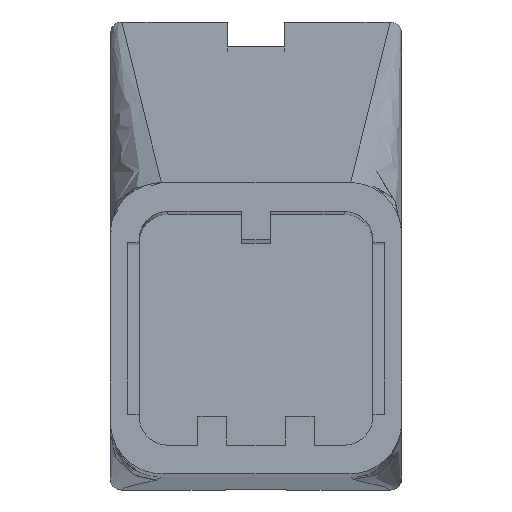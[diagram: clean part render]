
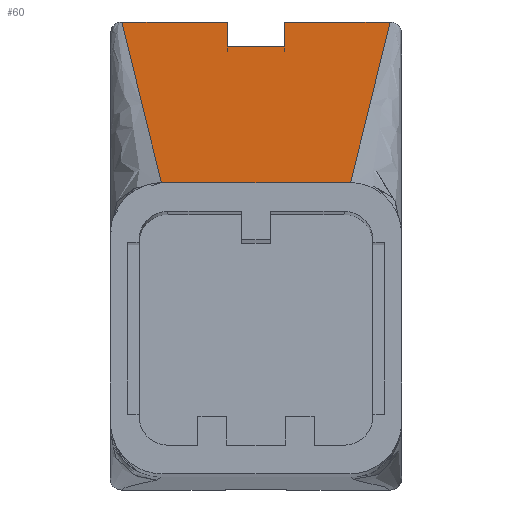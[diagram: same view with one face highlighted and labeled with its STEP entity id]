
A CAD part, top view. The second image highlights one B-rep face of the part: STEP entity #60.
In plain terms, the highlighted planar face has unit normal (0, 0.951, 0.309).
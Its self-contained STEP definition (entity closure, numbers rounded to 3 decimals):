
#60 = ADVANCED_FACE ( 'NONE', ( #2268 ), #554, .F. ) ;
#93 = EDGE_CURVE ( 'NONE', #1238, #2073, #885, .T. ) ;
#196 = LINE ( 'NONE', #731, #1003 ) ;
#206 = ORIENTED_EDGE ( 'NONE', *, *, #1747, .F. ) ;
#266 = CARTESIAN_POINT ( 'NONE',  ( 0., 25.4, 25.801 ) ) ;
#314 = LINE ( 'NONE', #1396, #1043 ) ;
#370 = CARTESIAN_POINT ( 'NONE',  ( 12.7, 39.726, -18.291 ) ) ;
#390 = EDGE_CURVE ( 'NONE', #2755, #2026, #2226, .T. ) ;
#459 = CARTESIAN_POINT ( 'NONE',  ( 11.7, 34.951, -3.594 ) ) ;
#494 = AXIS2_PLACEMENT_3D ( 'NONE', #876, #576, #863 ) ;
#507 = ORIENTED_EDGE ( 'NONE', *, *, #3163, .F. ) ;
#554 = PLANE ( 'NONE',  #494 ) ;
#576 = DIRECTION ( 'NONE',  ( 0., -0.951, -0.309 ) ) ;
#581 = CARTESIAN_POINT ( 'NONE',  ( -2.5, 37.563, -11.634 ) ) ;
#587 = LINE ( 'NONE', #3565, #1813 ) ;
#589 = DIRECTION ( 'NONE',  ( -1., 0., 0. ) ) ;
#600 = VECTOR ( 'NONE', #1489, 1000. ) ;
#606 = ORIENTED_EDGE ( 'NONE', *, *, #1386, .F. ) ;
#731 = CARTESIAN_POINT ( 'NONE',  ( 0., 37.563, -11.634 ) ) ;
#863 = DIRECTION ( 'NONE',  ( 0., 0.309, -0.951 ) ) ;
#876 = CARTESIAN_POINT ( 'NONE',  ( 12.7, 39.726, -18.291 ) ) ;
#885 = LINE ( 'NONE', #889, #1094 ) ;
#889 = CARTESIAN_POINT ( 'NONE',  ( 12.7, 39.726, -18.291 ) ) ;
#909 = CARTESIAN_POINT ( 'NONE',  ( -8.2, 30.175, 11.103 ) ) ;
#956 = LINE ( 'NONE', #2602, #600 ) ;
#1003 = VECTOR ( 'NONE', #2205, 1000. ) ;
#1043 = VECTOR ( 'NONE', #1450, 1000. ) ;
#1060 = EDGE_CURVE ( 'NONE', #2313, #2274, #956, .T. ) ;
#1066 = ORIENTED_EDGE ( 'NONE', *, *, #93, .T. ) ;
#1094 = VECTOR ( 'NONE', #589, 1000. ) ;
#1164 = VECTOR ( 'NONE', #2199, 1000. ) ;
#1238 = VERTEX_POINT ( 'NONE', #2271 ) ;
#1303 = CARTESIAN_POINT ( 'NONE',  ( -11.7, 39.726, -18.291 ) ) ;
#1310 = CARTESIAN_POINT ( 'NONE',  ( 8.2, 30.175, 11.103 ) ) ;
#1386 = EDGE_CURVE ( 'NONE', #2697, #3645, #1983, .T. ) ;
#1396 = CARTESIAN_POINT ( 'NONE',  ( -2.5, 39.726, -18.291 ) ) ;
#1430 = EDGE_CURVE ( 'NONE', #1238, #3677, #314, .T. ) ;
#1450 = DIRECTION ( 'NONE',  ( 0., -0.309, 0.951 ) ) ;
#1489 = DIRECTION ( 'NONE',  ( 1., 0., 0. ) ) ;
#1490 = LINE ( 'NONE', #370, #1164 ) ;
#1619 = CARTESIAN_POINT ( 'NONE',  ( 11.7, 39.726, -18.291 ) ) ;
#1652 = ORIENTED_EDGE ( 'NONE', *, *, #1060, .T. ) ;
#1739 = CARTESIAN_POINT ( 'NONE',  ( 2.5, 39.726, -18.291 ) ) ;
#1747 = EDGE_CURVE ( 'NONE', #3677, #2697, #196, .T. ) ;
#1813 = VECTOR ( 'NONE', #3521, 1000. ) ;
#1932 = B_SPLINE_CURVE_WITH_KNOTS ( 'NONE', 3,
 ( #3527, #2357, #909, #2968 ),
 .UNSPECIFIED., .F., .F.,
 ( 4, 4 ),
 ( 0., 0.046 ),
 .UNSPECIFIED. ) ;
#1983 = LINE ( 'NONE', #2595, #2650 ) ;
#2026 = VERTEX_POINT ( 'NONE', #1619 ) ;
#2034 = EDGE_CURVE ( 'NONE', #2026, #3645, #1490, .T. ) ;
#2073 = VERTEX_POINT ( 'NONE', #1303 ) ;
#2154 = CARTESIAN_POINT ( 'NONE',  ( 8.2, 25.4, 25.801 ) ) ;
#2199 = DIRECTION ( 'NONE',  ( -1., 0., 0. ) ) ;
#2205 = DIRECTION ( 'NONE',  ( 1., 0., 0. ) ) ;
#2221 = CARTESIAN_POINT ( 'NONE',  ( 8.2, 25.4, 25.801 ) ) ;
#2226 = B_SPLINE_CURVE_WITH_KNOTS ( 'NONE', 3,
 ( #2221, #1310, #459, #3668 ),
 .UNSPECIFIED., .F., .F.,
 ( 4, 4 ),
 ( 0.001, 0.047 ),
 .UNSPECIFIED. ) ;
#2268 = FACE_OUTER_BOUND ( 'NONE', #2708, .T. ) ;
#2271 = CARTESIAN_POINT ( 'NONE',  ( -2.5, 39.726, -18.291 ) ) ;
#2274 = VERTEX_POINT ( 'NONE', #266 ) ;
#2313 = VERTEX_POINT ( 'NONE', #3031 ) ;
#2357 = CARTESIAN_POINT ( 'NONE',  ( -11.7, 34.951, -3.594 ) ) ;
#2595 = CARTESIAN_POINT ( 'NONE',  ( 2.5, 39.726, -18.291 ) ) ;
#2602 = CARTESIAN_POINT ( 'NONE',  ( 12.7, 25.4, 25.801 ) ) ;
#2650 = VECTOR ( 'NONE', #3177, 1000. ) ;
#2681 = EDGE_CURVE ( 'NONE', #2073, #2313, #1932, .T. ) ;
#2697 = VERTEX_POINT ( 'NONE', #2980 ) ;
#2708 = EDGE_LOOP ( 'NONE', ( #507, #2942, #3281, #606, #206, #3750, #1066, #3427, #1652 ) ) ;
#2755 = VERTEX_POINT ( 'NONE', #2154 ) ;
#2942 = ORIENTED_EDGE ( 'NONE', *, *, #390, .T. ) ;
#2968 = CARTESIAN_POINT ( 'NONE',  ( -8.2, 25.4, 25.801 ) ) ;
#2980 = CARTESIAN_POINT ( 'NONE',  ( 2.5, 37.563, -11.634 ) ) ;
#3031 = CARTESIAN_POINT ( 'NONE',  ( -8.2, 25.4, 25.801 ) ) ;
#3163 = EDGE_CURVE ( 'NONE', #2755, #2274, #587, .T. ) ;
#3177 = DIRECTION ( 'NONE',  ( 0., 0.309, -0.951 ) ) ;
#3281 = ORIENTED_EDGE ( 'NONE', *, *, #2034, .T. ) ;
#3427 = ORIENTED_EDGE ( 'NONE', *, *, #2681, .T. ) ;
#3521 = DIRECTION ( 'NONE',  ( -1., 0., 0. ) ) ;
#3527 = CARTESIAN_POINT ( 'NONE',  ( -11.7, 39.726, -18.291 ) ) ;
#3565 = CARTESIAN_POINT ( 'NONE',  ( 12.7, 25.4, 25.801 ) ) ;
#3645 = VERTEX_POINT ( 'NONE', #1739 ) ;
#3668 = CARTESIAN_POINT ( 'NONE',  ( 11.7, 39.726, -18.291 ) ) ;
#3677 = VERTEX_POINT ( 'NONE', #581 ) ;
#3750 = ORIENTED_EDGE ( 'NONE', *, *, #1430, .F. ) ;
